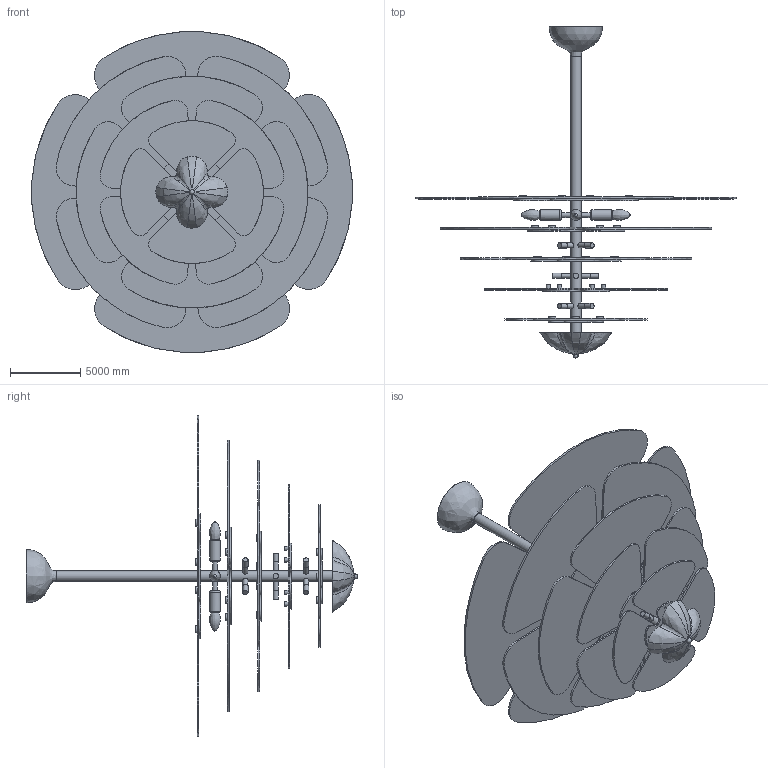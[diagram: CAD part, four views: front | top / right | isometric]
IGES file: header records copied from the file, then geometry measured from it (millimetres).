
Global section: file name: Lotus Leaf Layered Glass Chandelier-D35.4″,4; native system: 8HAutoCAD 2022 - 简体中文 (Simplified Chinese); preprocessor: Autodesk Translation Framework DWG producer (atf_dwg_producer); organization: unknown; date: 20251104.165338; units: inch
Bounding box: 22782.4 x 23618.48 x 22782.4 mm (x, y, z)
Volume: 164615190628.3 mm3; surface area: 2709324001.4 mm2
Topology: 150 solids, 150 shells, 799 faces, 1433 edges, 973 vertices
Faces by surface type: bspline 799
